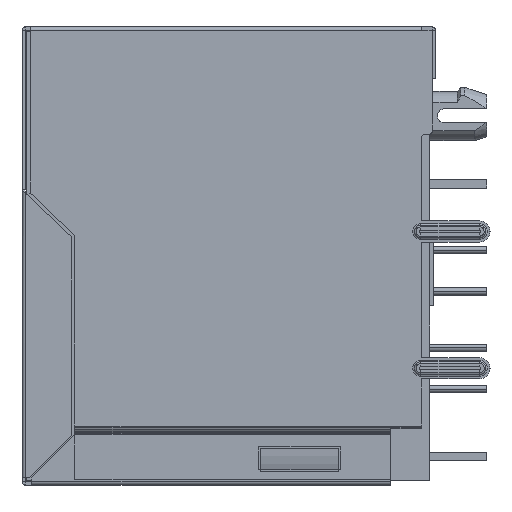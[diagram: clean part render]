
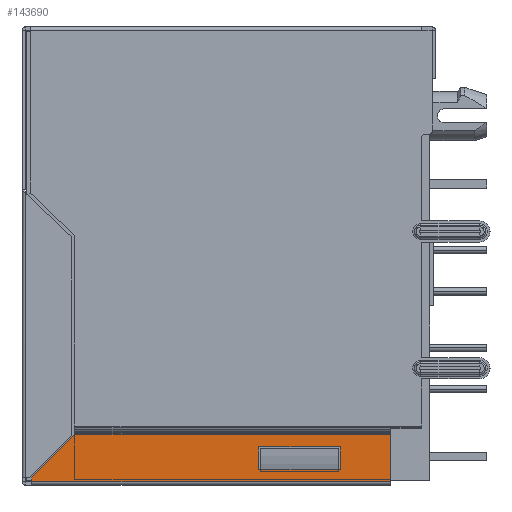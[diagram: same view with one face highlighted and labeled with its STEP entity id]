
A CAD part, left-side view. The second image highlights one B-rep face of the part: STEP entity #143690.
In plain terms, the highlighted planar face has unit normal (-1, 0, 0).
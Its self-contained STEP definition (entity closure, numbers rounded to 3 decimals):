
#130891=DIRECTION('',(0.,-1.,0.));
#130892=VECTOR('',#130891,22.05);
#130893=CARTESIAN_POINT('',(-31.875,12.075,-13.95));
#130894=LINE('',#130893,#130892);
#130908=DIRECTION('',(0.,0.,1.));
#130909=VECTOR('',#130908,0.24);
#130910=CARTESIAN_POINT('',(-31.875,12.075,-13.95));
#130911=LINE('',#130910,#130909);
#130912=DIRECTION('',(0.,-0.707,0.707));
#130913=VECTOR('',#130912,3.833);
#130914=CARTESIAN_POINT('',(-31.875,12.075,-13.71));
#130915=LINE('',#130914,#130913);
#130916=DIRECTION('',(0.,0.,-1.));
#130917=VECTOR('',#130916,2.95);
#130918=CARTESIAN_POINT('',(-31.875,-9.975,-11.));
#130919=LINE('',#130918,#130917);
#130928=DIRECTION('',(0.,1.,0.));
#130929=VECTOR('',#130928,19.34);
#130930=CARTESIAN_POINT('',(-31.875,-9.975,-11.));
#130931=LINE('',#130930,#130929);
#131114=DIRECTION('',(0.,0.,-1.));
#131115=VECTOR('',#131114,1.4);
#131116=CARTESIAN_POINT('',(-31.875,-1.875,-11.8));
#131117=LINE('',#131116,#131115);
#131122=DIRECTION('',(0.,1.,0.));
#131123=VECTOR('',#131122,5.);
#131124=CARTESIAN_POINT('',(-31.875,-6.875,-11.8));
#131125=LINE('',#131124,#131123);
#131134=DIRECTION('',(0.,0.,1.));
#131135=VECTOR('',#131134,1.4);
#131136=CARTESIAN_POINT('',(-31.875,-6.875,-13.2));
#131137=LINE('',#131136,#131135);
#131146=DIRECTION('',(0.,-1.,0.));
#131147=VECTOR('',#131146,5.);
#131148=CARTESIAN_POINT('',(-31.875,-1.875,-13.2));
#131149=LINE('',#131148,#131147);
#137861=CARTESIAN_POINT('',(-31.875,-9.975,-13.95));
#137862=VERTEX_POINT('',#137861);
#137863=CARTESIAN_POINT('',(-31.875,12.075,-13.95));
#137864=VERTEX_POINT('',#137863);
#137865=CARTESIAN_POINT('',(-31.875,12.075,-13.71));
#137866=VERTEX_POINT('',#137865);
#137869=CARTESIAN_POINT('',(-31.875,-9.975,-11.));
#137870=VERTEX_POINT('',#137869);
#137871=CARTESIAN_POINT('',(-31.875,9.365,-11.));
#137872=VERTEX_POINT('',#137871);
#137873=CARTESIAN_POINT('',(-31.875,-1.875,-11.8));
#137874=CARTESIAN_POINT('',(-31.875,-1.875,-13.2));
#137875=VERTEX_POINT('',#137873);
#137876=VERTEX_POINT('',#137874);
#137877=CARTESIAN_POINT('',(-31.875,-6.875,-11.8));
#137878=VERTEX_POINT('',#137877);
#137879=CARTESIAN_POINT('',(-31.875,-6.875,-13.2));
#137880=VERTEX_POINT('',#137879);
#143665=CARTESIAN_POINT('',(-31.875,1.05,-12.475));
#143666=DIRECTION('',(1.,0.,0.));
#143667=DIRECTION('',(0.,1.,0.));
#143668=AXIS2_PLACEMENT_3D('',#143665,#143666,#143667);
#143669=PLANE('',#143668);
#143671=ORIENTED_EDGE('',*,*,#143670,.T.);
#143672=ORIENTED_EDGE('',*,*,#143633,.F.);
#143673=ORIENTED_EDGE('',*,*,#143655,.T.);
#143675=ORIENTED_EDGE('',*,*,#143674,.T.);
#143677=ORIENTED_EDGE('',*,*,#143676,.F.);
#143678=EDGE_LOOP('',(#143671,#143672,#143673,#143675,#143677));
#143679=FACE_OUTER_BOUND('',#143678,.F.);
#143681=ORIENTED_EDGE('',*,*,#143680,.T.);
#143683=ORIENTED_EDGE('',*,*,#143682,.T.);
#143685=ORIENTED_EDGE('',*,*,#143684,.T.);
#143687=ORIENTED_EDGE('',*,*,#143686,.T.);
#143688=EDGE_LOOP('',(#143681,#143683,#143685,#143687));
#143689=FACE_BOUND('',#143688,.F.);
#143690=ADVANCED_FACE('',(#143679,#143689),#143669,.F.);
#143633=EDGE_CURVE('',#137864,#137862,#130894,.T.);
#143655=EDGE_CURVE('',#137864,#137866,#130911,.T.);
#143670=EDGE_CURVE('',#137870,#137862,#130919,.T.);
#143674=EDGE_CURVE('',#137866,#137872,#130915,.T.);
#143676=EDGE_CURVE('',#137870,#137872,#130931,.T.);
#143680=EDGE_CURVE('',#137875,#137876,#131117,.T.);
#143682=EDGE_CURVE('',#137876,#137880,#131149,.T.);
#143684=EDGE_CURVE('',#137880,#137878,#131137,.T.);
#143686=EDGE_CURVE('',#137878,#137875,#131125,.T.);
